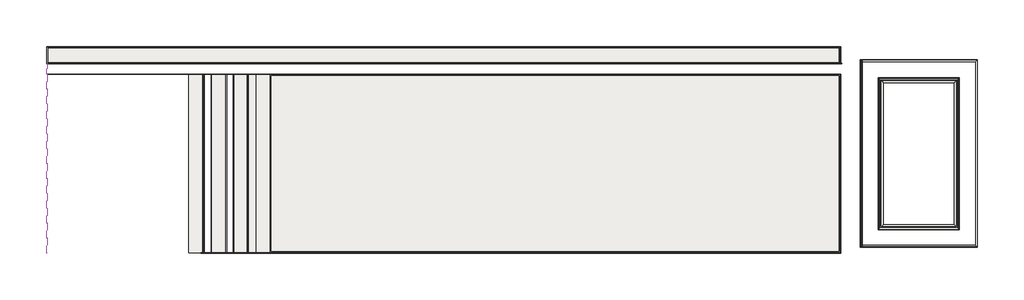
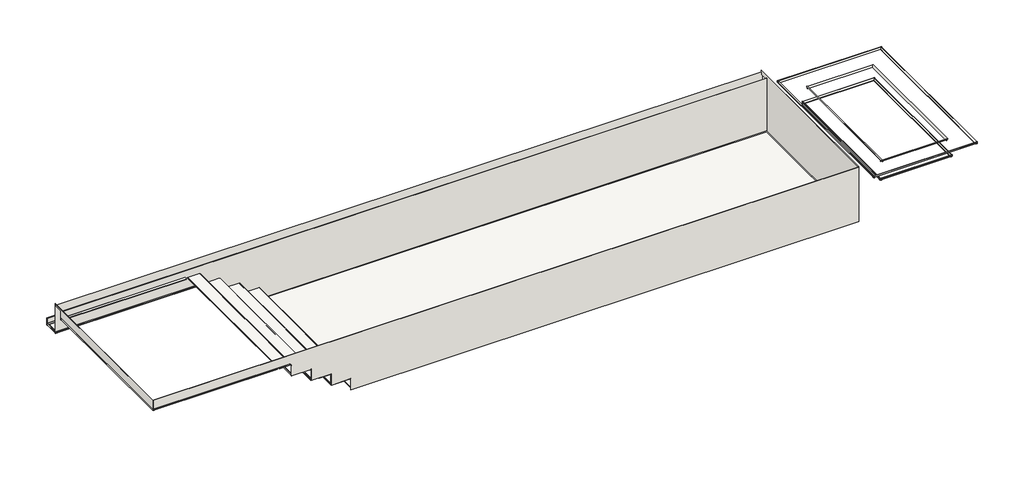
# One storey: 29 slabs, 6 walls.
"""IFC4 building model written with IfcOpenShell, lengths in millimetres."""

from ifc_helpers import new_model, si_unit, frame, origin, place, context, project, spatial, polyline, outline, extrude, faceted_brep, transform, mapped, element, save
from components import slab_8c3d5204, slab_bd7349c6, slab_3984271c, slab_e056f87c, slab_3af4a02d, slab_eabddf9c, slab_164be781, slab_b30ccb72, slab_938e37d3, slab_cbe32cec, slab_a8a3c319, slab_ea53779e, slab_13d236a3, slab_957b533d, slab_be6d574a, slab_8a27c395, slab_1abdbbb4

model = new_model("IFC4")

# Units and contexts
model_context = context("Model", 3, world=origin())
ifc_project = project(units=[si_unit("LENGTHUNIT", "METRE", prefix="MILLI")], contexts=[model_context])

# Site, building, storey
site = spatial("IfcSite", under=ifc_project)
building = spatial("IfcBuilding", under=site)
storey = spatial("IfcBuildingStorey", under=building, Name="3_NFondo1P1 -1.50", Elevation=-1500.0)

# Slabs
placement = place(None, origin())
element("IfcSlab", 1, ObjectType="Pieza 316_Patrón 1/3_Pietro_White_Anti-Slip", at=placement, inside=storey, context=model_context, shape_type="SweptSolid", body=[
    extrude(outline(polyline([(3829.514981, 11755.5586479), (16569.4618039, 11755.5586479), (16569.4618039, 7815.6118251), (3829.514981, 7815.6118251), (3829.514981, 11755.5586479)])), frame((0.0, 0.0, -1509.0), z_axis=(0.0, 0.0, 1.0), x_axis=(1.0, 0.0, 0.0)), (0.0, 0.0, 1.0), 9.0),
])
element("IfcSlab", 2, ObjectType="Pieza 316_Patrón 1/3_Pietro_White_Anti-Slip", at=placement, inside=storey, context=model_context, shape_type="SweptSolid", body=[
    extrude(outline(polyline([(3299.4883925, 11785.5852365), (3483.9883925, 11785.5852365), (3483.9883925, 7785.5852365), (3299.4883925, 7785.5852365), (3299.4883925, 11785.5852365)])), frame((0.0, 0.0, -1209.0), z_axis=(0.0, 0.0, 1.0), x_axis=(1.0, 0.0, 0.0)), (0.0, 0.0, 1.0), 9.0),
])
element("IfcSlab", 3, ObjectType="Pieza 316_Patrón 1/3_Pietro_White_Anti-Slip", at=placement, inside=storey, context=model_context, shape_type="SweptSolid", body=[
    extrude(outline(polyline([(16569.4618039, 12063.9389458), (-1171.151019, 12063.9389458), (-1171.151019, 12372.4985429), (16569.4618039, 12372.4985429), (16569.4618039, 12063.9389458)])), frame((0.0, 0.0, -819.0), z_axis=(0.0, 0.0, 1.0), x_axis=(1.0, 0.0, 0.0)), (0.0, 0.0, 1.0), 9.0),
])
slab_shape = slab_8c3d5204(model_context)
element("IfcSlab", 4, ObjectType="ROSA GRES_L62 : Pieza L62_Pietro_White_Anti-Slip", at=placement, inside=storey, context=model_context, shape_type="MappedRepresentation", body=[
    mapped(slab_shape, transform((3799.4883925, 7785.5852365, -1200.0), x_axis=(0.0, 1.0, 0.0), y_axis=(-1.0, 0.0, 0.0), z_axis=(0.0, 0.0, 1.0))),
])
element("IfcSlab", 5, ObjectType="ROSA GRES_L62 : Pieza L62_Pietro_White_Anti-Slip", at=placement, inside=storey, context=model_context, shape_type="MappedRepresentation", body=[
    mapped(slab_shape, transform((3299.4883925, 7785.5852365, -900.0), x_axis=(0.0, 1.0, 0.0), y_axis=(-1.0, 0.0, 0.0), z_axis=(0.0, 0.0, 1.0))),
])
element("IfcSlab", 6, ObjectType="ROSA GRES_L62 : Pieza L62_Pietro_White_Anti-Slip", at=placement, inside=storey, context=model_context, shape_type="MappedRepresentation", body=[
    mapped(slab_shape, transform((2799.4883925, 7785.5852365, -600.0), x_axis=(0.0, 1.0, 0.0), y_axis=(-1.0, 0.0, 0.0), z_axis=(0.0, 0.0, 1.0))),
])
slab_2_shape = slab_bd7349c6(model_context)
element("IfcSlab", 7, ObjectType="ROSA GRES_188 : Pieza 188_Pietro_White_Anti-Slip", at=placement, inside=storey, context=model_context, shape_type="MappedRepresentation", body=[
    mapped(slab_2_shape, transform((19677.0533033, 12112.5251315, -564.4781643), x_axis=(-1.0, 0.0, 0.0), y_axis=(0.0, -1.0, 0.0), z_axis=(0.0, 0.0, 1.0))),
])
slab_3_shape = slab_3984271c(model_context)
element("IfcSlab", 8, ObjectType="ROSA GRES_188 : Pieza 188_Pietro_White_Anti-Slip", at=placement, inside=storey, context=model_context, shape_type="MappedRepresentation", body=[
    mapped(slab_3_shape, transform((19677.0533033, 7909.2128113, -564.4781643), x_axis=(0.0, 1.0, 0.0), y_axis=(-1.0, 0.0, 0.0), z_axis=(0.0, 0.0, 1.0))),
])
slab_4_shape = slab_e056f87c(model_context)
element("IfcSlab", 9, ObjectType="ROSA GRES_188 : Pieza 188_Pietro_White_Anti-Slip", at=placement, inside=storey, context=model_context, shape_type="MappedRepresentation", body=[
    mapped(slab_4_shape, transform((17058.7565519, 12112.5251315, -571.2288156), x_axis=(0.0, -1.0, 0.0), y_axis=(0.2588190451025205, 0.0, -0.9659258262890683), z_axis=(0.9659258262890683, 0.0, 0.2588190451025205))),
])
slab_5_shape = slab_3af4a02d(model_context)
element("IfcSlab", 10, ObjectType="ROSA GRES_188 : Pieza 188_Pietro_White_Anti-Slip", at=placement, inside=storey, context=model_context, shape_type="MappedRepresentation", body=[
    mapped(slab_5_shape, transform((17056.4913366, 7909.2128113, -564.4781643), x_axis=(1.0, 0.0, 0.0), y_axis=(0.0, 1.0, 0.0), z_axis=(0.0, 0.0, 1.0))),
])
slab_6_shape = slab_eabddf9c(model_context)
element("IfcSlab", 11, ObjectType="ROSA GRES_188 : Pieza 188_Pietro_White_Anti-Slip", at=placement, inside=storey, context=model_context, shape_type="MappedRepresentation", body=[
    mapped(slab_6_shape, transform((17447.9443508, 8304.3255855, -1009.9734114), x_axis=(1.0, 0.0, 0.0), y_axis=(0.0, 1.0, 0.0), z_axis=(0.0, 0.0, 1.0))),
])
element("IfcSlab", 12, ObjectType="ROSA GRES_188 : Pieza 188_Pietro_White_Anti-Slip", at=placement, inside=storey, context=model_context, shape_type="MappedRepresentation", body=[
    mapped(slab_6_shape, transform((19270.7230046, 11712.4123572, -1009.9734114), x_axis=(-1.0, 0.0, 0.0), y_axis=(0.0, -1.0, 0.0), z_axis=(0.0, 0.0, 1.0))),
])
slab_7_shape = slab_164be781(model_context)
element("IfcSlab", 13, ObjectType="ROSA GRES_188 : Pieza 188_Pietro_White_Anti-Slip", at=placement, inside=storey, context=model_context, shape_type="MappedRepresentation", body=[
    mapped(slab_7_shape, transform((19270.7230046, 8304.3255855, -1009.9734114), x_axis=(0.0, 1.0, 0.0), y_axis=(-1.0, 0.0, 0.0), z_axis=(0.0, 0.0, 1.0))),
])
element("IfcSlab", 14, ObjectType="ROSA GRES_188 : Pieza 188_Pietro_White_Anti-Slip", at=placement, inside=storey, context=model_context, shape_type="MappedRepresentation", body=[
    mapped(slab_7_shape, transform((17447.9443508, 11712.4123572, -1009.9734114), x_axis=(0.0, -1.0, 0.0), y_axis=(1.0, 0.0, 0.0), z_axis=(0.0, 0.0, 1.0))),
])
slab_8_shape = slab_b30ccb72(model_context)
element("IfcSlab", 15, ObjectType="ROSA GRES_183 : Pieza 183_Pietro_White_Anti-Slip", at=placement, inside=storey, context=model_context, shape_type="MappedRepresentation", body=[
    mapped(slab_8_shape, transform((19198.270868, 11639.9602206, -590.0), x_axis=(0.0, -1.0, 0.0), y_axis=(1.0, 0.0, 0.0), z_axis=(0.0, 0.0, 1.0))),
])
element("IfcSlab", 16, ObjectType="ROSA GRES_183 : Pieza 183_Pietro_White_Anti-Slip", at=placement, inside=storey, context=model_context, shape_type="MappedRepresentation", body=[
    mapped(slab_8_shape, transform((17520.3964874, 8376.1527221, -590.0), x_axis=(0.0, 1.0, 0.0), y_axis=(-1.0, 0.0, 0.0), z_axis=(0.0, 0.0, 1.0))),
])
slab_9_shape = slab_938e37d3(model_context)
element("IfcSlab", 17, ObjectType="ROSA GRES_183 : Pieza 183_Pietro_White_Anti-Slip", at=placement, inside=storey, context=model_context, shape_type="MappedRepresentation", body=[
    mapped(slab_9_shape, transform((19198.270868, 8376.1527221, -590.0), x_axis=(-1.0, 0.0, 0.0), y_axis=(0.0, -1.0, 0.0), z_axis=(0.0, 0.0, 1.0))),
])
element("IfcSlab", 18, ObjectType="ROSA GRES_183 : Pieza 183_Pietro_White_Anti-Slip", at=placement, inside=storey, context=model_context, shape_type="MappedRepresentation", body=[
    mapped(slab_9_shape, transform((17520.3964874, 11639.9602206, -590.0), x_axis=(1.0, 0.0, 0.0), y_axis=(0.0, 1.0, 0.0), z_axis=(0.0, 0.0, 1.0))),
])
slab_10_shape = slab_cbe32cec(model_context)
element("IfcSlab", 19, ObjectType="ROSA GRES_188 : Pieza 188_Pietro_White_Anti-Slip", at=placement, inside=storey, context=model_context, shape_type="MappedRepresentation", body=[
    mapped(slab_10_shape, transform((3289.514981, 11785.5852365, -1209.9734114), x_axis=(0.0, -1.0, 0.0), y_axis=(1.0, 0.0, 0.0), z_axis=(0.0, 0.0, 1.0))),
])
element("IfcSlab", 20, ObjectType="ROSA GRES_188 : Pieza 188_Pietro_White_Anti-Slip", at=placement, inside=storey, context=model_context, shape_type="MappedRepresentation", body=[
    mapped(slab_10_shape, transform((2789.514981, 11785.5852365, -909.9734114), x_axis=(0.0, -1.0, 0.0), y_axis=(1.0, 0.0, 0.0), z_axis=(0.0, 0.0, 1.0))),
])
slab_11_shape = slab_a8a3c319(model_context)
element("IfcSlab", 21, ObjectType="ROSA GRES_188 : Pieza 188_Pietro_White_Anti-Slip", at=placement, inside=storey, context=model_context, shape_type="MappedRepresentation", body=[
    mapped(slab_11_shape, transform((1929.4883925, 7775.6118251, -309.9734114), x_axis=(-1.0, 0.0, 0.0), y_axis=(0.0, 0.0, 1.0), z_axis=(0.0, 1.0, 0.0))),
])
slab_12_shape = slab_ea53779e(model_context)
element("IfcSlab", 22, ObjectType="ROSA GRES_188 : Pieza 188_Pietro_White_Anti-Slip", at=placement, inside=storey, context=model_context, shape_type="MappedRepresentation", body=[
    mapped(slab_12_shape, transform((-1210.485019, 11795.5586479, -309.9734114), x_axis=(0.0, -1.0, 0.0), y_axis=(1.0, 0.0, 0.0), z_axis=(0.0, 0.0, 1.0))),
])
slab_13_shape = slab_13d236a3(model_context)
element("IfcSlab", 23, ObjectType="ROSA GRES_188 : Pieza 188_Pietro_White_Anti-Slip", at=placement, inside=storey, context=model_context, shape_type="MappedRepresentation", body=[
    mapped(slab_13_shape, transform((2289.514981, 11785.5852365, -609.9734114), x_axis=(0.0, -1.0, 0.0), y_axis=(0.0, 0.0, -1.0), z_axis=(1.0, 0.0, 0.0))),
])
slab_14_shape = slab_957b533d(model_context)
element("IfcSlab", 24, ObjectType="ROSA GRES_188 : Pieza 188_Pietro_White_Anti-Slip", at=placement, inside=storey, context=model_context, shape_type="MappedRepresentation", body=[
    mapped(slab_14_shape, transform((-1211.151019, 12023.9389458, -819.9734114), x_axis=(1.0, 0.0, 0.0), y_axis=(0.0, 1.0, 0.0), z_axis=(0.0, 0.0, 1.0))),
])
element("IfcSlab", 25, ObjectType="ROSA GRES_188 : Pieza 188_Pietro_White_Anti-Slip", at=placement, inside=storey, context=model_context, shape_type="MappedRepresentation", body=[
    mapped(slab_14_shape, transform((16609.4618039, 12412.4985429, -819.9734114), x_axis=(-1.0, 0.0, 0.0), y_axis=(0.0, -1.0, 0.0), z_axis=(0.0, 0.0, 1.0))),
])
slab_15_shape = slab_be6d574a(model_context)
element("IfcSlab", 26, ObjectType="ROSA GRES_188 : Pieza 188_Pietro_White_Anti-Slip", at=placement, inside=storey, context=model_context, shape_type="MappedRepresentation", body=[
    mapped(slab_15_shape, transform((16609.4618039, 12023.9389458, -819.9734114), x_axis=(0.0, 1.0, 0.0), y_axis=(-1.0, 0.0, 0.0), z_axis=(0.0, 0.0, 1.0))),
])
element("IfcSlab", 27, ObjectType="ROSA GRES_188 : Pieza 188_Pietro_White_Anti-Slip", at=placement, inside=storey, context=model_context, shape_type="MappedRepresentation", body=[
    mapped(slab_15_shape, transform((-1211.151019, 12412.4985429, -819.9734114), x_axis=(0.0, -1.0, 0.0), y_axis=(1.0, 0.0, 0.0), z_axis=(0.0, 0.0, 1.0))),
])
slab_16_shape = slab_8a27c395(model_context)
element("IfcSlab", 28, ObjectType="ROSA GRES_L62 : Pieza L62_Pietro_White_Anti-Slip", at=placement, inside=storey, context=model_context, shape_type="MappedRepresentation", body=[
    mapped(slab_16_shape, transform((2299.4883925, 7783.0852365, -300.0), x_axis=(0.0, 1.0, 0.0), y_axis=(-1.0, 0.0, 0.0), z_axis=(0.0, 0.0, 1.0))),
])
slab_17_shape = slab_1abdbbb4(model_context)
element("IfcSlab", 29, ObjectType="ROSA GRES_188 : Pieza 188_Pietro_White_Anti-Slip", at=placement, inside=storey, context=model_context, shape_type="MappedRepresentation", body=[
    mapped(slab_17_shape, transform((1929.514981, 11795.5586479, -309.9734114), x_axis=(-1.0, 0.0, 0.0), y_axis=(0.0, -1.0, 0.0), z_axis=(0.0, 0.0, 1.0))),
])

# Walls
element("IfcWall", 30, ObjectType="Pieza 316_Patrón 1/3_Pietro_White_Anti-Slip", at=placement, inside=storey, context=model_context, shape_type="Brep", body=[
    faceted_brep([(-1209.5116075, 11794.5852365, -269.9734114), (-1209.5116075, 7776.5852365, -269.9734114), (-1209.5116075, 7776.5852365, -37.0), (-1209.5116075, 12040.0852365, -37.0), (-1209.5116075, 12040.0852365, -77.6522559), (-1209.5116075, 11794.5852365, -77.6522559), (-1200.5116075, 11794.5852365, -269.9734114), (-1200.5116075, 11794.5852365, -100.0), (-1200.5116075, 11794.5852365, -77.6522559), (-1200.5116075, 12040.0852365, -77.6522559), (-1200.5116075, 12040.0852365, -37.0), (-1200.5116075, 7785.5852365, -37.0), (-1200.5116075, 7776.5852365, -37.0), (-1200.5116075, 7776.5852365, -269.9734114), (-1200.5116075, 7785.5852365, -269.9734114)], [[[0, 1, 2, 3, 4, 5]], [[6, 7, 8, 9, 10, 11, 12, 13, 14]], [[2, 1, 13, 12]], [[1, 0, 6, 14, 13]], [[3, 2, 12, 11, 10]], [[4, 3, 10, 9]], [[5, 4, 9, 8]], [[0, 5, 8, 7, 6]]]),
])
element("IfcWall", 31, ObjectType="Pieza 316_Patrón 1/3_Pietro_White_Anti-Slip", at=placement, inside=storey, context=model_context, shape_type="Brep", body=[
    faceted_brep([(-1200.5116075, 7776.5852365, -269.9707408), (2246.4883925, 7776.5852365, -269.9703118), (2246.4883925, 7776.5852365, -300.0), (2290.4883925, 7776.5852365, -300.0), (2290.4883925, 7776.5852365, -600.0), (2790.4883925, 7776.5852365, -600.0), (2790.4883925, 7776.5852365, -900.0), (3290.4883925, 7776.5852365, -900.0), (3290.4883925, 7776.5852365, -1200.0), (3790.4883925, 7776.5852365, -1200.0), (3790.4883925, 7776.5852365, -1500.0), (16608.4883925, 7776.5852365, -1500.0), (16608.4883925, 7776.5852365, -36.9886194), (-1200.5116075, 7776.5852365, -36.9886194), (-1200.5116075, 7785.5852365, -269.9707408), (-1200.5116075, 7785.5852365, -36.9886194), (16599.4883925, 7785.5852365, -36.9886194), (16608.4883925, 7785.5852365, -36.9886194), (16608.4883925, 7785.5852365, -1500.0), (16599.4883925, 7785.5852365, -1500.0), (3790.4883925, 7785.5852365, -1500.0), (3790.4883925, 7785.5852365, -1469.9734114), (3790.4883925, 7785.5852365, -1236.5738794), (3790.4883925, 7785.5852365, -1200.0), (3290.4883925, 7785.5852365, -1200.0), (3290.4883925, 7785.5852365, -1169.9734114), (3290.4883925, 7785.5852365, -937.6053027), (3290.4883925, 7785.5852365, -900.0), (2790.4883925, 7785.5852365, -900.0), (2790.4883925, 7785.5852365, -869.9734114), (2790.4883925, 7785.5852365, -638.4862556), (2790.4883925, 7785.5852365, -600.0), (2290.4883925, 7785.5852365, -600.0), (2290.4883925, 7785.5852365, -576.5358849), (2290.4883925, 7785.5852365, -330.9758178), (2290.4883925, 7785.5852365, -300.0), (2246.4883925, 7785.5852365, -300.0), (2246.4883925, 7785.5852365, -269.9703118)], [[[0, 1, 2, 3, 4, 5, 6, 7, 8, 9, 10, 11, 12, 13]], [[14, 15, 16, 17, 18, 19, 20, 21, 22, 23, 24, 25, 26, 27, 28, 29, 30, 31, 32, 33, 34, 35, 36, 37]], [[0, 13, 15, 14]], [[12, 11, 18, 17]], [[11, 10, 20, 19, 18]], [[13, 12, 17, 16, 15]], [[1, 0, 14, 37]], [[2, 1, 37, 36]], [[3, 2, 36, 35]], [[5, 4, 32, 31]], [[7, 6, 28, 27]], [[9, 8, 24, 23]], [[10, 9, 23, 22, 21, 20]], [[8, 7, 27, 26, 25, 24]], [[6, 5, 31, 30, 29, 28]], [[4, 3, 35, 34, 33, 32]]]),
])
element("IfcWall", 32, ObjectType="Pieza 316_Patrón 1/3_Pietro_White_Anti-Slip", at=placement, inside=storey, context=model_context, shape_type="Brep", body=[
    faceted_brep([(16608.4883925, 7785.5852365, -1500.0), (16608.4883925, 11794.5852365, -1500.0), (16608.4883925, 11794.5852365, -142.0), (16608.4883925, 12033.9123572, -142.0), (16608.4883925, 12033.9123572, -37.0), (16608.4883925, 7785.5852365, -37.0), (16599.4883925, 7785.5852365, -1500.0), (16599.4883925, 7785.5852365, -37.0), (16599.4883925, 12033.9123572, -37.0), (16599.4883925, 12033.9123572, -142.0), (16599.4883925, 11794.5852365, -142.0), (16599.4883925, 11794.5852365, -1500.0), (16599.4883925, 11785.5852365, -1500.0)], [[[0, 1, 2, 3, 4, 5]], [[6, 7, 8, 9, 10, 11, 12]], [[0, 5, 7, 6]], [[1, 0, 6, 12, 11]], [[5, 4, 8, 7]], [[3, 2, 10, 9]], [[4, 3, 9, 8]], [[2, 1, 11, 10]]]),
])
element("IfcWall", 33, ObjectType="Pieza 316_Patrón 1/3_Pietro_White_Anti-Slip", at=placement, inside=storey, context=model_context, shape_type="Brep", body=[
    faceted_brep([(16599.4883925, 11794.5852365, -100.0), (16599.4883925, 11794.5852365, -142.0), (16599.4883925, 11794.5852365, -1500.0), (3790.4883925, 11794.5852365, -1500.0), (3790.4883925, 11794.5852365, -1200.0), (3290.4883925, 11794.5852365, -1200.0), (3290.4883925, 11794.5852365, -900.0), (2790.4883925, 11794.5852365, -900.0), (2790.4883925, 11794.5852365, -600.0), (2290.4883925, 11794.5852365, -600.0), (2290.4883925, 11794.5852365, -300.0), (-1200.5116075, 11794.5852365, -300.0), (-1200.5116075, 11794.5852365, -269.9734114), (-1200.5116075, 11794.5852365, -100.0), (16599.4883925, 11785.5852365, -1500.0), (16599.4883925, 11785.5852365, -100.0), (-1200.5116075, 11785.5852365, -100.0), (-1200.5116075, 11785.5852365, -300.0), (2290.4883925, 11785.5852365, -300.0), (2290.4883925, 11785.5852365, -330.9758178), (2290.4883925, 11785.5852365, -576.5358849), (2290.4883925, 11785.5852365, -600.0), (2790.4883925, 11785.5852365, -600.0), (2790.4883925, 11785.5852365, -638.4862556), (2790.4883925, 11785.5852365, -869.9734114), (2790.4883925, 11785.5852365, -900.0), (3290.4883925, 11785.5852365, -900.0), (3290.4883925, 11785.5852365, -937.6053027), (3290.4883925, 11785.5852365, -1169.9734114), (3290.4883925, 11785.5852365, -1200.0), (3790.4883925, 11785.5852365, -1200.0), (3790.4883925, 11785.5852365, -1236.5738794), (3790.4883925, 11785.5852365, -1469.9734114), (3790.4883925, 11785.5852365, -1500.0)], [[[0, 1, 2, 3, 4, 5, 6, 7, 8, 9, 10, 11, 12, 13]], [[14, 15, 16, 17, 18, 19, 20, 21, 22, 23, 24, 25, 26, 27, 28, 29, 30, 31, 32, 33]], [[13, 12, 11, 17, 16]], [[0, 15, 14, 2, 1]], [[3, 2, 14, 33]], [[0, 13, 16, 15]], [[5, 4, 30, 29]], [[7, 6, 26, 25]], [[9, 8, 22, 21]], [[11, 10, 18, 17]], [[4, 3, 33, 32, 31, 30]], [[6, 5, 29, 28, 27, 26]], [[8, 7, 25, 24, 23, 22]], [[10, 9, 21, 20, 19, 18]]]),
])
element("IfcWall", 34, ObjectType="Pieza 316_Patrón 1/3_Pietro_White_Anti-Slip", at=placement, inside=storey, context=model_context, shape_type="Brep", body=[
    faceted_brep([(16628.4883925, 12033.9123572, -779.9734114), (16608.4883925, 12033.9123572, -779.9734114), (16599.4883925, 12033.9123572, -779.9734114), (-1201.1776075, 12033.9123572, -779.9734114), (-1209.5116075, 12033.9123572, -779.9734114), (-1209.5116075, 12033.9123572, -79.816998), (16628.4883925, 12033.9123572, -79.816998), (16628.4883925, 12024.9123572, -779.9734114), (16628.4883925, 12024.9123572, -79.816998), (-1209.5116075, 12024.9123572, -79.816998), (-1209.5116075, 12024.9123572, -779.9734114)], [[[0, 1, 2, 3, 4, 5, 6]], [[7, 8, 9, 10]], [[4, 3, 2, 1, 0, 7, 10]], [[5, 4, 10, 9]], [[6, 5, 9, 8]], [[0, 6, 8, 7]]]),
])
element("IfcWall", 35, ObjectType="Pieza 316_Patrón 1/3_Pietro_White_Anti-Slip", at=placement, inside=storey, context=model_context, shape_type="Brep", body=[
    faceted_brep([(16603.9883925, 12411.5251315, -650.0), (16603.9883925, 12411.5251315, -779.9734114), (16603.9883925, 12411.5251315, -819.0), (-1201.1776075, 12411.5251315, -819.0), (-1201.1776075, 12411.5251315, -779.9734114), (-1201.1776075, 12411.5251315, -650.0), (16599.4883925, 12411.5251315, -650.0), (16603.9883925, 12402.5251315, -819.0), (16603.9883925, 12402.5251315, -779.9734114), (16603.9883925, 12402.5251315, -650.0), (16599.4883925, 12402.5251315, -650.0), (-1201.1776075, 12402.5251315, -650.0), (-1201.1776075, 12402.5251315, -819.0)], [[[0, 1, 2, 3, 4, 5, 6]], [[7, 8, 9, 10, 11, 12]], [[3, 2, 7, 12]], [[0, 6, 5, 11, 10, 9]], [[0, 9, 8, 7, 2, 1]], [[5, 4, 3, 12, 11]]]),
])

save(model, "model.ifc")
